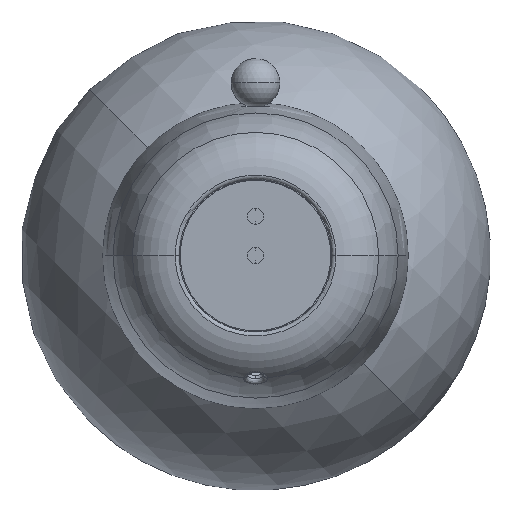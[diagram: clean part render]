
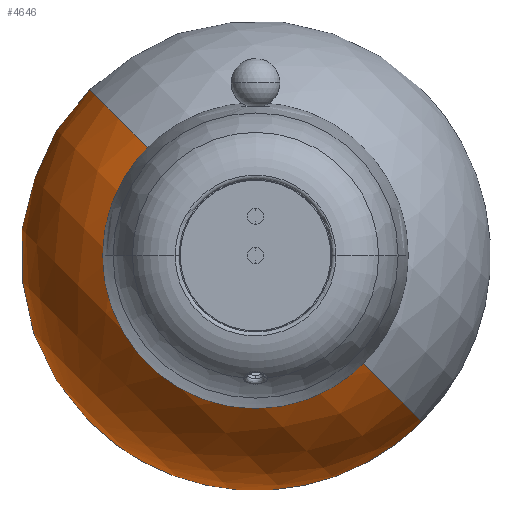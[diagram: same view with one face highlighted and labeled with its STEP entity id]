
A CAD part, front view. The second image highlights one B-rep face of the part: STEP entity #4646.
In plain terms, the highlighted spherical face has radius 120 mm.
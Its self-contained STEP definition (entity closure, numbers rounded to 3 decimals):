
#151 = CARTESIAN_POINT ( 'NONE',  ( 0., -118.929, 0. ) ) ;
#160 = DIRECTION ( 'NONE',  ( 0., 0., -1. ) ) ;
#166 = CARTESIAN_POINT ( 'NONE',  ( 0., 0., 0. ) ) ;
#202 = DIRECTION ( 'NONE',  ( 1., 0., 0. ) ) ;
#215 = DIRECTION ( 'NONE',  ( -1., 0., 0. ) ) ;
#276 = DIRECTION ( 'NONE',  ( 0., -1., 0. ) ) ;
#583 = CIRCLE ( 'NONE', #6237, 16. ) ;
#595 = CIRCLE ( 'NONE', #6245, 120. ) ;
#622 = CIRCLE ( 'NONE', #6249, 120. ) ;
#1468 = FACE_OUTER_BOUND ( 'NONE', #2889, .T. ) ;
#1496 = SPHERICAL_SURFACE ( 'NONE', #6021, 120. ) ;
#2889 = EDGE_LOOP ( 'NONE', ( #3197, #3364, #2911 ) ) ;
#2911 = ORIENTED_EDGE ( 'NONE', *, *, #3538, .F. ) ;
#3197 = ORIENTED_EDGE ( 'NONE', *, *, #3512, .F. ) ;
#3364 = ORIENTED_EDGE ( 'NONE', *, *, #3532, .T. ) ;
#3512 = EDGE_CURVE ( 'NONE', #5889, #5828, #622, .T. ) ;
#3532 = EDGE_CURVE ( 'NONE', #5889, #5815, #595, .T. ) ;
#3538 = EDGE_CURVE ( 'NONE', #5828, #5815, #583, .T. ) ;
#4646 = ADVANCED_FACE ( 'NONE', ( #1468 ), #1496, .T. ) ;
#5467 = CARTESIAN_POINT ( 'NONE',  ( 0., 0., 0. ) ) ;
#5473 = DIRECTION ( 'NONE',  ( 0., 0., 1. ) ) ;
#5478 = DIRECTION ( 'NONE',  ( 1., 0., 0. ) ) ;
#5557 = DIRECTION ( 'NONE',  ( 1., 0., 0. ) ) ;
#5558 = DIRECTION ( 'NONE',  ( 0., 0., 1. ) ) ;
#5559 = CARTESIAN_POINT ( 'NONE',  ( 0., 0., 0. ) ) ;
#5815 = VERTEX_POINT ( 'NONE', #7276 ) ;
#5828 = VERTEX_POINT ( 'NONE', #7289 ) ;
#5889 = VERTEX_POINT ( 'NONE', #7350 ) ;
#6021 = AXIS2_PLACEMENT_3D ( 'NONE', #5467, #5473, #5478 ) ;
#6237 = AXIS2_PLACEMENT_3D ( 'NONE', #151, #276, #202 ) ;
#6245 = AXIS2_PLACEMENT_3D ( 'NONE', #166, #160, #215 ) ;
#6249 = AXIS2_PLACEMENT_3D ( 'NONE', #5559, #5558, #5557 ) ;
#7276 = CARTESIAN_POINT ( 'NONE',  ( 16., -118.929, 0. ) ) ;
#7289 = CARTESIAN_POINT ( 'NONE',  ( -16., -118.929, 0. ) ) ;
#7350 = CARTESIAN_POINT ( 'NONE',  ( 0., 120., 0. ) ) ;
